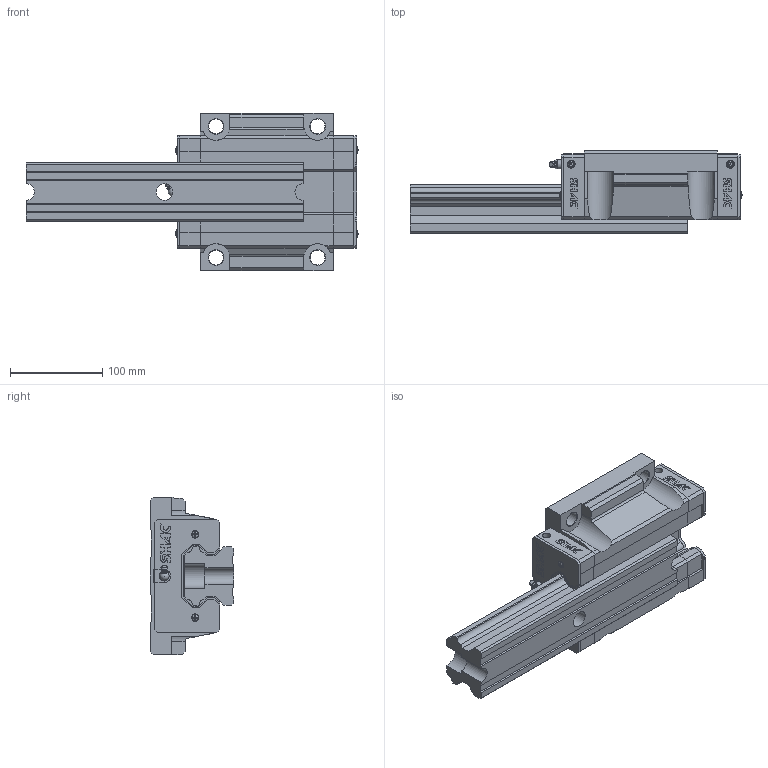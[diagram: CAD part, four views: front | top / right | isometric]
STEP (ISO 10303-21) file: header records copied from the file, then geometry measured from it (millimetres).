
FILE_DESCRIPTION( ( 'STEP AP214' ), '1' );
FILE_NAME( 'F:/品牌/SHAC 台湾鼎翰传动科技有限公司/3D滑块/GHW65CB1R300Z0C-0_0_1_1_.stp', '2025-04-21T22:48:43', ( 'License CC BY-ND 4.0' ), ( 'CADENAS' ), ' ', 'PARTsolutions', ' ' );
FILE_SCHEMA( ( 'AUTOMOTIVE_DESIGN { 1 0 10303 214 1 1 1 1 }' ) );
Length unit declared in the file: millimetre
Products named in the file (8): GHW65CB1R300Z0C-0/0(1_1); _GHR65R300C+RC-0/0(1)_RAIL; _GHW65CB_SLIDER; _GHW65CB_C; _GHW65CB_P; _GH65_SCREW; _GH65_BOLT; _GH65-_G
Assembly tree (12 placements, depth 2):
  GHW65CB1R300Z0C-0/0(1_1)
    _GHR65R300C+RC-0/0(1)_RAIL
    _GHW65CB_SLIDER
    _GHW65CB_C  x2
    _GHW65CB_P  x2
    _GH65_SCREW  x4
    _GH65_BOLT
    _GH65-_G
Bounding box: 359.26 x 90 x 170 mm (x, y, z)
Volume: 2360231.8 mm3; surface area: 265187.4 mm2
Topology: 12 solids, 12 shells, 824 faces, 2206 edges, 1455 vertices
Faces by surface type: plane 672, cylinder 111, cone 26, torus 9, sphere 5, bspline 1
Full cylindrical faces by diameter (mm): 0.992 x4, 4.5 x1, 4.7 x4, 7.35 x2, 7.76 x4, 8 x4, 8.5 x4, 10 x2, 10.5 x2, 16 x4, 18 x1, 26 x1
Entity records: 20119 total; most frequent: CARTESIAN_POINT 2994, ORIENTED_EDGE 2664, DIRECTION 2566, EDGE_CURVE 1332, LINE 1084, VECTOR 1084, VERTEX_POINT 901, AXIS2_PLACEMENT_3D 741
